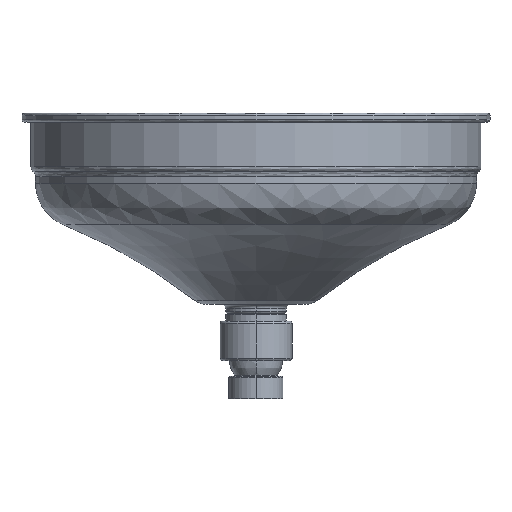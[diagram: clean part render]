
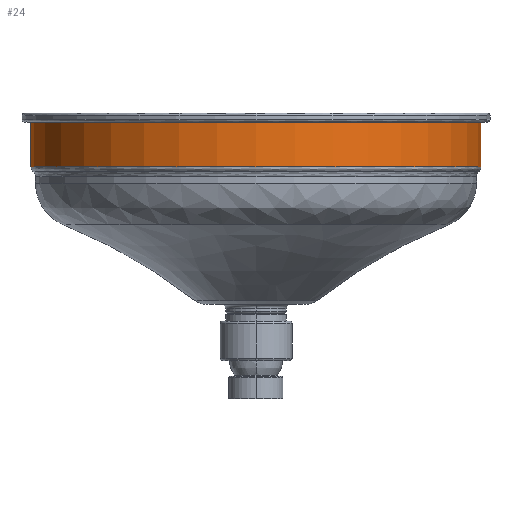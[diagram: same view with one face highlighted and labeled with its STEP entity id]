
A CAD part, front view. The second image highlights one B-rep face of the part: STEP entity #24.
In plain terms, the highlighted cylindrical face has radius 100 mm (diameter 200 mm), a partial arc.
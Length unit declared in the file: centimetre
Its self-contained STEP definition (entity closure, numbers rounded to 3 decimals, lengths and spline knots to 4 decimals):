
#24=ADVANCED_FACE('',(#682),#7336,.T.);
#682=FACE_OUTER_BOUND('',#1186,.T.);
#1186=EDGE_LOOP('',(#1873,#1874,#1875,#1876));
#1873=ORIENTED_EDGE('',*,*,#3865,.F.);
#1874=ORIENTED_EDGE('',*,*,#3868,.T.);
#1875=ORIENTED_EDGE('',*,*,#3867,.T.);
#1876=ORIENTED_EDGE('',*,*,#3866,.T.);
#3865=EDGE_CURVE('',#6693,#6694,#5041,.T.);
#3866=EDGE_CURVE('',#6695,#6694,#4849,.T.);
#3867=EDGE_CURVE('',#6696,#6695,#5042,.T.);
#3868=EDGE_CURVE('',#6693,#6696,#4850,.T.);
#4849=B_SPLINE_CURVE_WITH_KNOTS('',1,(#26041,#26042),.UNSPECIFIED.,.F.,
 .F.,(2,2),(-19.7574,0.),.UNSPECIFIED.);
#4850=B_SPLINE_CURVE_WITH_KNOTS('',1,(#26046,#26047),.UNSPECIFIED.,.F.,
 .F.,(2,2),(-19.7574,0.),.UNSPECIFIED.);
#5041=TRIMMED_CURVE($,#5869,(#26039),(#26040),.T.,.CARTESIAN.);
#5042=TRIMMED_CURVE($,#5870,(#26044),(#26045),.T.,.CARTESIAN.);
#5869=CIRCLE('',#8273,10.);
#5870=CIRCLE('',#8274,10.);
#6693=VERTEX_POINT('',#25328);
#6694=VERTEX_POINT('',#25329);
#6695=VERTEX_POINT('',#25330);
#6696=VERTEX_POINT('',#25331);
#7336=CYLINDRICAL_SURFACE('',#7928,10.);
#7928=AXIS2_PLACEMENT_3D('',#11548,#9085,$);
#8273=AXIS2_PLACEMENT_3D($,#26038,#9450,#9451);
#8274=AXIS2_PLACEMENT_3D($,#26043,#9452,#9453);
#9085=DIRECTION('',(0.,0.,-1.));
#9450=DIRECTION('',(0.,0.,-1.));
#9451=DIRECTION('',(1.,0.,0.));
#9452=DIRECTION('',(0.,0.,-1.));
#9453=DIRECTION('',(1.,0.,0.));
#11548=CARTESIAN_POINT('',(0.,0.,-1.3879));
#25328=CARTESIAN_POINT('',(10.,0.,-2.3757));
#25329=CARTESIAN_POINT('',(-10.,0.,-2.3757));
#25330=CARTESIAN_POINT('',(-10.,0.,-0.4));
#25331=CARTESIAN_POINT('',(10.,0.,-0.4));
#26038=CARTESIAN_POINT('',(0.,0.,-2.3757));
#26039=CARTESIAN_POINT('',(10.,0.,-2.3757));
#26040=CARTESIAN_POINT('',(-10.,0.,-2.3757));
#26041=CARTESIAN_POINT('',(-10.,0.,-0.4));
#26042=CARTESIAN_POINT('',(-10.,0.,-2.3757));
#26043=CARTESIAN_POINT('',(0.,0.,-0.4));
#26044=CARTESIAN_POINT('',(10.,0.,-0.4));
#26045=CARTESIAN_POINT('',(-10.,0.,-0.4));
#26046=CARTESIAN_POINT('',(10.,0.,-2.3757));
#26047=CARTESIAN_POINT('',(10.,0.,-0.4));
